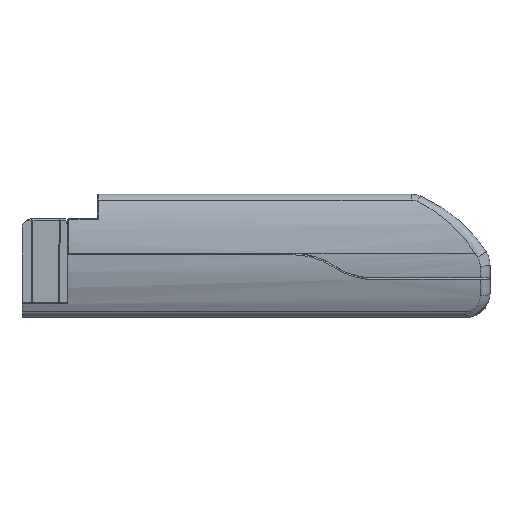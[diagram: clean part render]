
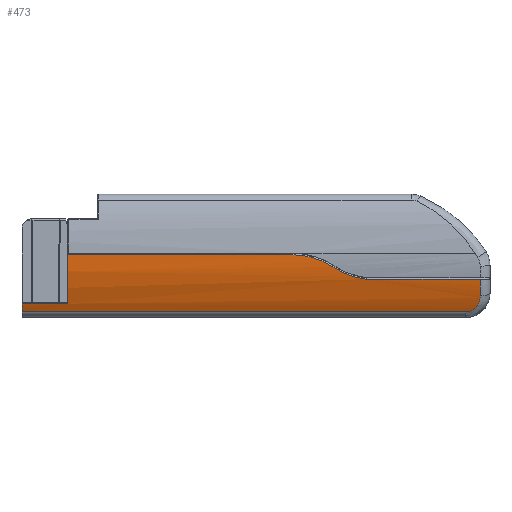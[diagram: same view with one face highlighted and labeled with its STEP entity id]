
A CAD part, top view. The second image highlights one B-rep face of the part: STEP entity #473.
In plain terms, the highlighted cylindrical face has radius 26.4 mm (diameter 52.8 mm), a partial arc.
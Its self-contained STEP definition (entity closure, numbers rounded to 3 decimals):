
#473 = ADVANCED_FACE ( 'NONE', ( #11398 ), #11406, .T. ) ;
#816 = EDGE_CURVE ( 'NONE', #5770, #5773, #17046, .T. ) ;
#1238 = EDGE_LOOP ( 'NONE', ( #3200, #3201, #3202, #3203, #3204, #3205, #3206, #3207, #3208, #3209 ) ) ;
#1980 = VERTEX_POINT ( 'NONE', #18281 ) ;
#1984 = VERTEX_POINT ( 'NONE', #18285 ) ;
#1986 = VERTEX_POINT ( 'NONE', #18287 ) ;
#1987 = VERTEX_POINT ( 'NONE', #18288 ) ;
#2002 = VERTEX_POINT ( 'NONE', #18303 ) ;
#2391 = EDGE_CURVE ( 'NONE', #5848, #5858, #12799, .T. ) ;
#2393 = EDGE_CURVE ( 'NONE', #5854, #5848, #12801, .T. ) ;
#2420 = EDGE_CURVE ( 'NONE', #2002, #1980, #17308, .T. ) ;
#2421 = EDGE_CURVE ( 'NONE', #1980, #1986, #12808, .T. ) ;
#2422 = EDGE_CURVE ( 'NONE', #1986, #1987, #17310, .T. ) ;
#2423 = EDGE_CURVE ( 'NONE', #1987, #5854, #17307, .T. ) ;
#2424 = EDGE_CURVE ( 'NONE', #5858, #5770, #17311, .T. ) ;
#2425 = EDGE_CURVE ( 'NONE', #5773, #1984, #17313, .T. ) ;
#2426 = EDGE_CURVE ( 'NONE', #1984, #2002, #17315, .T. ) ;
#3200 = ORIENTED_EDGE ( 'NONE', *, *, #2420, .T. ) ;
#3201 = ORIENTED_EDGE ( 'NONE', *, *, #2421, .T. ) ;
#3202 = ORIENTED_EDGE ( 'NONE', *, *, #2422, .T. ) ;
#3203 = ORIENTED_EDGE ( 'NONE', *, *, #2423, .T. ) ;
#3204 = ORIENTED_EDGE ( 'NONE', *, *, #2393, .T. ) ;
#3205 = ORIENTED_EDGE ( 'NONE', *, *, #2391, .T. ) ;
#3206 = ORIENTED_EDGE ( 'NONE', *, *, #2424, .T. ) ;
#3207 = ORIENTED_EDGE ( 'NONE', *, *, #816, .T. ) ;
#3208 = ORIENTED_EDGE ( 'NONE', *, *, #2425, .T. ) ;
#3209 = ORIENTED_EDGE ( 'NONE', *, *, #2426, .T. ) ;
#5770 = VERTEX_POINT ( 'NONE', #24560 ) ;
#5773 = VERTEX_POINT ( 'NONE', #24563 ) ;
#5848 = VERTEX_POINT ( 'NONE', #24638 ) ;
#5854 = VERTEX_POINT ( 'NONE', #24644 ) ;
#5858 = VERTEX_POINT ( 'NONE', #24648 ) ;
#11398 = FACE_OUTER_BOUND ( 'NONE', #1238, .T. ) ;
#11406 = CYLINDRICAL_SURFACE ( 'NONE', #11746, 26.4 ) ;
#11746 = AXIS2_PLACEMENT_3D ( 'NONE', #12110, #12111, #12119 ) ;
#12110 = CARTESIAN_POINT ( 'NONE',  ( 43.927, 15.544, 0. ) ) ;
#12111 = DIRECTION ( 'NONE',  ( -1., 0., 0. ) ) ;
#12119 = DIRECTION ( 'NONE',  ( 0., 0., 1. ) ) ;
#12799 = B_SPLINE_CURVE_WITH_KNOTS ( 'NONE', 3,
 ( #18527, #18529, #18532, #18533, #18534, #18535, #18536, #18537, #18538, #18539 ),
 .UNSPECIFIED., .F., .F.,
 ( 4, 2, 2, 2, 4 ),
 ( 0., 0.25, 0.375, 0.5, 1. ),
 .UNSPECIFIED. ) ;
#12801 = B_SPLINE_CURVE_WITH_KNOTS ( 'NONE', 3,
 ( #18530, #18541, #18545, #18546, #18547, #18548, #18549, #18550, #18551, #18552 ),
 .UNSPECIFIED., .F., .F.,
 ( 4, 2, 2, 2, 4 ),
 ( 0., 0.25, 0.375, 0.5, 1. ),
 .UNSPECIFIED. ) ;
#12808 = B_SPLINE_CURVE_WITH_KNOTS ( 'NONE', 3,
 ( #18619, #18630, #18649, #18650, #18651, #18652, #18653, #18654, #18655, #18656, #18657, #18658, #18659, #18660, #18661, #18662, #18663, #18664 ),
 .UNSPECIFIED., .F., .F.,
 ( 4, 2, 2, 2, 2, 2, 2, 2, 4 ),
 ( 0., 0.001, 0.001, 0.002, 0.003, 0.003, 0.004, 0.004, 0.005 ),
 .UNSPECIFIED. ) ;
#16660 = AXIS2_PLACEMENT_3D ( 'NONE', #17748, #17749, #17750 ) ;
#16728 = AXIS2_PLACEMENT_3D ( 'NONE', #18667, #18668, #18669 ) ;
#16729 = AXIS2_PLACEMENT_3D ( 'NONE', #18675, #18676, #18677 ) ;
#17046 = CIRCLE ( 'NONE', #16660, 26.4 ) ;
#17307 = LINE ( 'NONE', #18648, #17312 ) ;
#17308 = LINE ( 'NONE', #18645, #17309 ) ;
#17309 = VECTOR ( 'NONE', #18646, 1000. ) ;
#17310 = CIRCLE ( 'NONE', #16728, 26.4 ) ;
#17311 = LINE ( 'NONE', #18670, #17314 ) ;
#17312 = VECTOR ( 'NONE', #18647, 1000. ) ;
#17313 = LINE ( 'NONE', #18672, #17316 ) ;
#17314 = VECTOR ( 'NONE', #18671, 1000. ) ;
#17315 = CIRCLE ( 'NONE', #16729, 26.4 ) ;
#17316 = VECTOR ( 'NONE', #18673, 1000. ) ;
#17748 = CARTESIAN_POINT ( 'NONE',  ( -41.773, 15.544, 0. ) ) ;
#17749 = DIRECTION ( 'NONE',  ( 1., 0., 0. ) ) ;
#17750 = DIRECTION ( 'NONE',  ( 0., 0., -1. ) ) ;
#18281 = CARTESIAN_POINT ( 'NONE',  ( 38.927, 3.642, 23.565 ) ) ;
#18285 = CARTESIAN_POINT ( 'NONE',  ( -51.073, 5.332, 24.345 ) ) ;
#18287 = CARTESIAN_POINT ( 'NONE',  ( 41.927, 6.888, 24.941 ) ) ;
#18288 = CARTESIAN_POINT ( 'NONE',  ( 41.927, 10.296, 25.873 ) ) ;
#18303 = CARTESIAN_POINT ( 'NONE',  ( -51.073, 3.642, 23.565 ) ) ;
#18527 = CARTESIAN_POINT ( 'NONE',  ( 12.056, 12.767, 26.254 ) ) ;
#18529 = CARTESIAN_POINT ( 'NONE',  ( 11.458, 13.169, 26.296 ) ) ;
#18530 = CARTESIAN_POINT ( 'NONE',  ( 18.727, 10.295, 25.874 ) ) ;
#18532 = CARTESIAN_POINT ( 'NONE',  ( 10.835, 13.524, 26.324 ) ) ;
#18533 = CARTESIAN_POINT ( 'NONE',  ( 9.865, 13.985, 26.354 ) ) ;
#18534 = CARTESIAN_POINT ( 'NONE',  ( 9.535, 14.127, 26.362 ) ) ;
#18535 = CARTESIAN_POINT ( 'NONE',  ( 8.863, 14.388, 26.375 ) ) ;
#18536 = CARTESIAN_POINT ( 'NONE',  ( 8.519, 14.506, 26.38 ) ) ;
#18537 = CARTESIAN_POINT ( 'NONE',  ( 6.789, 15.035, 26.398 ) ) ;
#18538 = CARTESIAN_POINT ( 'NONE',  ( 5.373, 15.247, 26.398 ) ) ;
#18539 = CARTESIAN_POINT ( 'NONE',  ( 3.927, 15.246, 26.398 ) ) ;
#18541 = CARTESIAN_POINT ( 'NONE',  ( 18.131, 10.365, 25.887 ) ) ;
#18545 = CARTESIAN_POINT ( 'NONE',  ( 17.544, 10.471, 25.908 ) ) ;
#18546 = CARTESIAN_POINT ( 'NONE',  ( 16.674, 10.68, 25.948 ) ) ;
#18547 = CARTESIAN_POINT ( 'NONE',  ( 16.386, 10.758, 25.963 ) ) ;
#18548 = CARTESIAN_POINT ( 'NONE',  ( 15.814, 10.931, 25.994 ) ) ;
#18549 = CARTESIAN_POINT ( 'NONE',  ( 15.531, 11.026, 26.011 ) ) ;
#18550 = CARTESIAN_POINT ( 'NONE',  ( 14.111, 11.549, 26.099 ) ) ;
#18551 = CARTESIAN_POINT ( 'NONE',  ( 13.046, 12.092, 26.182 ) ) ;
#18552 = CARTESIAN_POINT ( 'NONE',  ( 12.056, 12.767, 26.254 ) ) ;
#18619 = CARTESIAN_POINT ( 'NONE',  ( 38.927, 3.642, 23.565 ) ) ;
#18630 = CARTESIAN_POINT ( 'NONE',  ( 39.143, 3.642, 23.565 ) ) ;
#18645 = CARTESIAN_POINT ( 'NONE',  ( 43.927, 3.642, 23.565 ) ) ;
#18646 = DIRECTION ( 'NONE',  ( 1., 0., 0. ) ) ;
#18647 = DIRECTION ( 'NONE',  ( -1., 0., 0. ) ) ;
#18648 = CARTESIAN_POINT ( 'NONE',  ( 43.927, 10.293, 25.873 ) ) ;
#18649 = CARTESIAN_POINT ( 'NONE',  ( 39.354, 3.667, 23.578 ) ) ;
#18650 = CARTESIAN_POINT ( 'NONE',  ( 39.765, 3.763, 23.626 ) ) ;
#18651 = CARTESIAN_POINT ( 'NONE',  ( 39.967, 3.836, 23.662 ) ) ;
#18652 = CARTESIAN_POINT ( 'NONE',  ( 40.342, 4.017, 23.751 ) ) ;
#18653 = CARTESIAN_POINT ( 'NONE',  ( 40.517, 4.127, 23.804 ) ) ;
#18654 = CARTESIAN_POINT ( 'NONE',  ( 40.843, 4.381, 23.924 ) ) ;
#18655 = CARTESIAN_POINT ( 'NONE',  ( 40.989, 4.521, 23.989 ) ) ;
#18656 = CARTESIAN_POINT ( 'NONE',  ( 41.253, 4.827, 24.127 ) ) ;
#18657 = CARTESIAN_POINT ( 'NONE',  ( 41.37, 4.993, 24.201 ) ) ;
#18658 = CARTESIAN_POINT ( 'NONE',  ( 41.57, 5.339, 24.349 ) ) ;
#18659 = CARTESIAN_POINT ( 'NONE',  ( 41.654, 5.52, 24.424 ) ) ;
#18660 = CARTESIAN_POINT ( 'NONE',  ( 41.79, 5.895, 24.574 ) ) ;
#18661 = CARTESIAN_POINT ( 'NONE',  ( 41.841, 6.091, 24.65 ) ) ;
#18662 = CARTESIAN_POINT ( 'NONE',  ( 41.91, 6.485, 24.798 ) ) ;
#18663 = CARTESIAN_POINT ( 'NONE',  ( 41.927, 6.685, 24.87 ) ) ;
#18664 = CARTESIAN_POINT ( 'NONE',  ( 41.927, 6.888, 24.941 ) ) ;
#18667 = CARTESIAN_POINT ( 'NONE',  ( 41.927, 15.544, 0. ) ) ;
#18668 = DIRECTION ( 'NONE',  ( -1., 0., 0. ) ) ;
#18669 = DIRECTION ( 'NONE',  ( 0., 0., -1. ) ) ;
#18670 = CARTESIAN_POINT ( 'NONE',  ( 43.927, 15.246, 26.398 ) ) ;
#18671 = DIRECTION ( 'NONE',  ( -1., 0., 0. ) ) ;
#18672 = CARTESIAN_POINT ( 'NONE',  ( 43.927, 5.332, 24.345 ) ) ;
#18673 = DIRECTION ( 'NONE',  ( -1., 0., 0. ) ) ;
#18675 = CARTESIAN_POINT ( 'NONE',  ( -51.073, 15.544, 0. ) ) ;
#18676 = DIRECTION ( 'NONE',  ( 1., 0., 0. ) ) ;
#18677 = DIRECTION ( 'NONE',  ( 0., 0., -1. ) ) ;
#24560 = CARTESIAN_POINT ( 'NONE',  ( -41.773, 15.246, 26.398 ) ) ;
#24563 = CARTESIAN_POINT ( 'NONE',  ( -41.773, 5.332, 24.345 ) ) ;
#24638 = CARTESIAN_POINT ( 'NONE',  ( 12.056, 12.767, 26.254 ) ) ;
#24644 = CARTESIAN_POINT ( 'NONE',  ( 18.727, 10.295, 25.874 ) ) ;
#24648 = CARTESIAN_POINT ( 'NONE',  ( 3.927, 15.246, 26.398 ) ) ;
